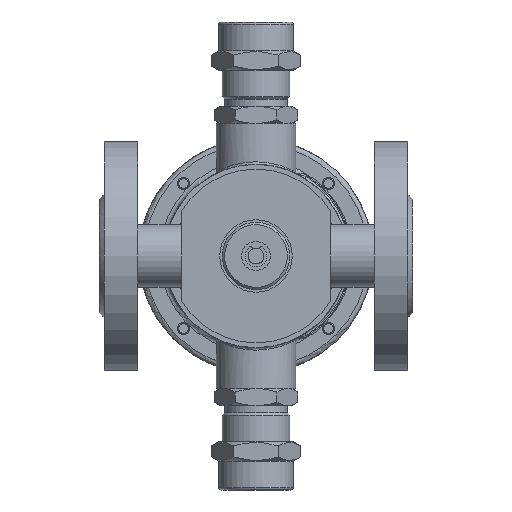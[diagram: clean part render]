
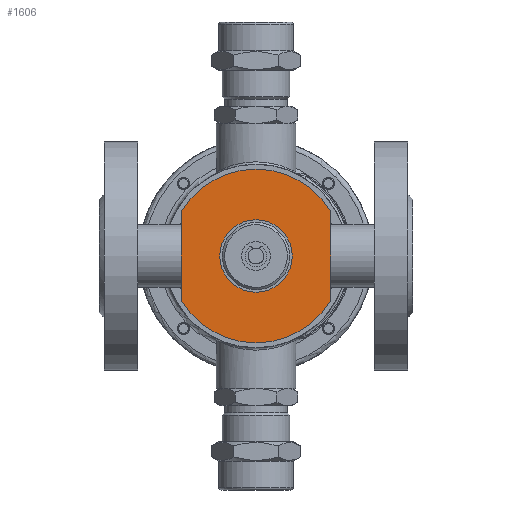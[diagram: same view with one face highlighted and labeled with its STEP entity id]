
A CAD part, front view. The second image highlights one B-rep face of the part: STEP entity #1606.
In plain terms, the highlighted planar face has unit normal (0, -1, 0).
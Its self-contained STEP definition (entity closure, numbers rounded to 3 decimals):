
#1606=ADVANCED_FACE('',(#18302,#18304),#18306,.T.);
#18302=FACE_BOUND('',#18303,.T.);
#18303=EDGE_LOOP('',(#28964));
#18304=FACE_OUTER_BOUND('',#18305,.T.);
#18305=EDGE_LOOP('',(#28965,#28966,#28967,#28968));
#18306=PLANE('',#18307);
#18307=AXIS2_PLACEMENT_3D('',#18308,#18309,#18310);
#18308=CARTESIAN_POINT('',(0.,-15.5,0.));
#18309=DIRECTION('',(0.,-1.,0.));
#18310=DIRECTION('',(-1.,0.,0.));
#28964=ORIENTED_EDGE('',*,*,#38049,.F.);
#28965=ORIENTED_EDGE('',*,*,#38032,.T.);
#28966=ORIENTED_EDGE('',*,*,#38040,.T.);
#28967=ORIENTED_EDGE('',*,*,#38038,.T.);
#28968=ORIENTED_EDGE('',*,*,#38035,.T.);
#38032=EDGE_CURVE('',#45315,#45316,#45317,.F.);
#38035=EDGE_CURVE('',#45320,#45315,#45321,.T.);
#38038=EDGE_CURVE('',#45325,#45320,#45326,.F.);
#38040=EDGE_CURVE('',#45316,#45325,#45328,.T.);
#38049=EDGE_CURVE('',#45343,#45343,#45344,.T.);
#45315=VERTEX_POINT('',#69589);
#45316=VERTEX_POINT('',#69590);
#45317=LINE('',#69591,#69592);
#45320=VERTEX_POINT('',#69600);
#45321=CIRCLE('',#69601,36.);
#45325=VERTEX_POINT('',#69613);
#45326=LINE('',#69614,#69615);
#45328=CIRCLE('',#69620,36.);
#45343=VERTEX_POINT('',#69660);
#45344=CIRCLE('',#69661,15.);
#69589=CARTESIAN_POINT('',(-31.,-15.5,18.303));
#69590=CARTESIAN_POINT('',(-31.,-15.5,-18.303));
#69591=CARTESIAN_POINT('',(-31.,-15.5,-18.303));
#69592=VECTOR('',#69593,1.);
#69593=DIRECTION('',(0.,0.,1.));
#69600=CARTESIAN_POINT('',(31.,-15.5,18.303));
#69601=AXIS2_PLACEMENT_3D('',#69602,#69603,#69604);
#69602=CARTESIAN_POINT('',(0.,-15.5,0.));
#69603=DIRECTION('',(0.,-1.,0.));
#69604=DIRECTION('',(0.861,0.,0.508));
#69613=CARTESIAN_POINT('',(31.,-15.5,-18.303));
#69614=CARTESIAN_POINT('',(31.,-15.5,18.303));
#69615=VECTOR('',#69616,1.);
#69616=DIRECTION('',(0.,0.,-1.));
#69620=AXIS2_PLACEMENT_3D('',#69621,#69622,#69623);
#69621=CARTESIAN_POINT('',(0.,-15.5,0.));
#69622=DIRECTION('',(0.,-1.,0.));
#69623=DIRECTION('',(-0.861,0.,-0.508));
#69660=CARTESIAN_POINT('',(-15.,-15.5,0.));
#69661=AXIS2_PLACEMENT_3D('',#69662,#69663,#69664);
#69662=CARTESIAN_POINT('',(0.,-15.5,0.));
#69663=DIRECTION('',(0.,-1.,0.));
#69664=DIRECTION('',(-1.,0.,0.));
